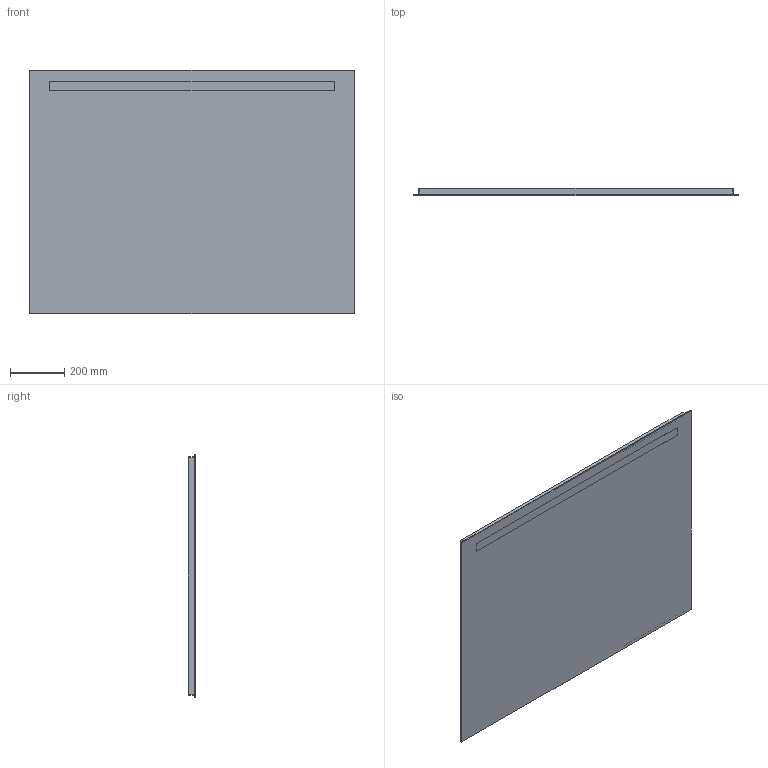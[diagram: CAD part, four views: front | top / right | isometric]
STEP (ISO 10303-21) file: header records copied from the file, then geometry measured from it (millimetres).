
FILE_DESCRIPTION(/* description */ (''),/* implementation_level */ '2;1');
FILE_NAME(/* name */ 'C:\Planerdaten\Export PLA\502.815.00.1\stp\502815.stp',/* time_stamp */ '2022-12-02T15:17:27+01:00',/* author */ ('JANAN'),/* organization */ (''),/* preprocessor_version */ 'ST-DEVELOPER v18.1',/* originating_system */ 'Autodesk Inventor 2021',/* authorisation */ '');
FILE_SCHEMA (('AUTOMOTIVE_DESIGN { 1 0 10303 214 3 1 1 }'));
Length unit declared in the file: millimetre
Products named in the file (1): tmp4959.tmp
Bounding box: 1200 x 26 x 900 mm (x, y, z)
Volume: 26771744.4 mm3; surface area: 4309253.5 mm2
Topology: 2 solids, 2 shells, 29 faces, 68 edges, 48 vertices
Faces by surface type: plane 21, cylinder 8
Full cylindrical faces by diameter (mm): 8 x4
Entity records: 937 total; most frequent: DIRECTION 152, CARTESIAN_POINT 146, ORIENTED_EDGE 136, EDGE_CURVE 68, AXIS2_PLACEMENT_3D 54, VERTEX_POINT 48, LINE 44, VECTOR 44
